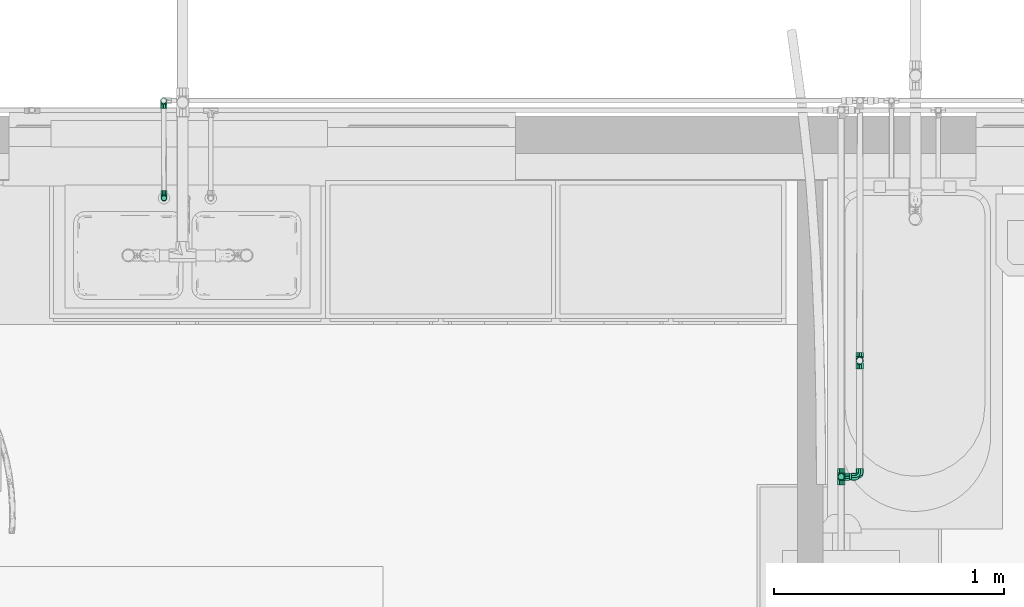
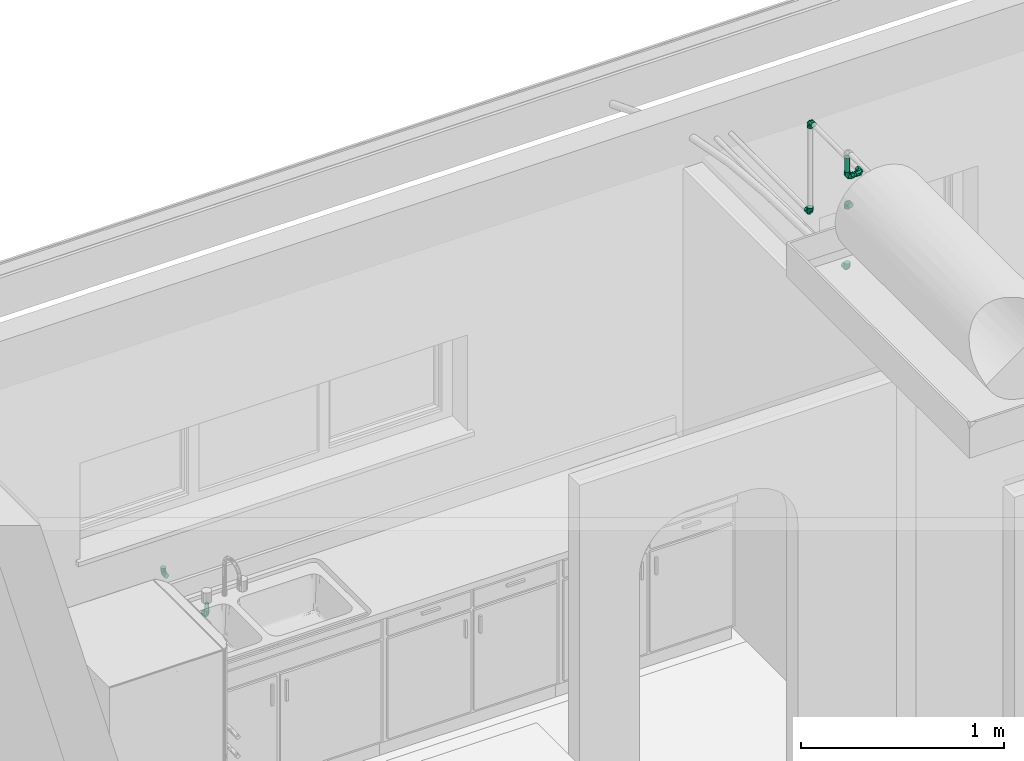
# One storey, part 27 of 41: 8 flow fittings, 3 flow segments.
"""IFC2X3 building model written with IfcOpenShell, lengths in millimetres."""

from ifc_helpers import new_model, entity, si_unit, converted_unit, derived_unit, direction, frame, origin, origin_2d_with_axis, place, context, subcontext, project, spatial, circle, extrude, faceted_brep, source, transform, mapped, type_object, type_shapes, element, save


model = new_model("IFC2X3")

# Units and contexts
model_context = context("Model", 3, precision=0.01, world=origin(), true_north=direction((6.12303176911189e-17, 1.0)))
body_context = subcontext(model_context, "Body", "Model", "MODEL_VIEW")
ifc_project = project(units=[si_unit("LENGTHUNIT", "METRE", prefix="MILLI"), si_unit("AREAUNIT", "SQUARE_METRE"), si_unit("VOLUMEUNIT", "CUBIC_METRE"), converted_unit("PLANEANGLEUNIT", "DEGREE", entity("IfcRatioMeasure", 0.0174532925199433), si_unit("PLANEANGLEUNIT", "RADIAN"), dimensions=[0, 0, 0, 0, 0, 0, 0]), si_unit("MASSUNIT", "GRAM", prefix="KILO"), derived_unit("MASSDENSITYUNIT", [(si_unit("MASSUNIT", "GRAM", prefix="KILO"), 1), (si_unit("LENGTHUNIT", "METRE"), -3)]), si_unit("TIMEUNIT", "SECOND"), si_unit("FREQUENCYUNIT", "HERTZ"), si_unit("THERMODYNAMICTEMPERATUREUNIT", "DEGREE_CELSIUS"), derived_unit("THERMALTRANSMITTANCEUNIT", [(si_unit("MASSUNIT", "GRAM", prefix="KILO"), 1), (si_unit("THERMODYNAMICTEMPERATUREUNIT", "KELVIN"), -1), (si_unit("TIMEUNIT", "SECOND"), -3)]), derived_unit("VOLUMETRICFLOWRATEUNIT", [(si_unit("LENGTHUNIT", "METRE"), 3), (si_unit("TIMEUNIT", "SECOND"), -1)]), si_unit("ELECTRICCURRENTUNIT", "AMPERE"), si_unit("ELECTRICVOLTAGEUNIT", "VOLT"), si_unit("POWERUNIT", "WATT"), si_unit("FORCEUNIT", "NEWTON", prefix="KILO"), si_unit("ILLUMINANCEUNIT", "LUX"), si_unit("LUMINOUSFLUXUNIT", "LUMEN"), si_unit("LUMINOUSINTENSITYUNIT", "CANDELA"), derived_unit("USERDEFINED", [(si_unit("MASSUNIT", "GRAM", prefix="KILO"), -1), (si_unit("LENGTHUNIT", "METRE"), -2), (si_unit("TIMEUNIT", "SECOND"), 3), (si_unit("LUMINOUSFLUXUNIT", "LUMEN"), 1)]), derived_unit("LINEARVELOCITYUNIT", [(si_unit("LENGTHUNIT", "METRE"), 1), (si_unit("TIMEUNIT", "SECOND"), -1)]), si_unit("PRESSUREUNIT", "PASCAL"), derived_unit("USERDEFINED", [(si_unit("LENGTHUNIT", "METRE"), -2), (si_unit("MASSUNIT", "GRAM", prefix="KILO"), 1), (si_unit("TIMEUNIT", "SECOND"), -2)])], contexts=[model_context])

# Site, building, storey
site_placement = place(None, origin())
site = spatial("IfcSite", under=ifc_project, at=site_placement, Name="Surface", CompositionType="ELEMENT")
building_placement = place(site_placement, origin())
building = spatial("IfcBuilding", under=site, at=building_placement, CompositionType="ELEMENT")
storey_placement = place(building_placement, frame((0.0, 0.0, 300.0)))
storey = spatial("IfcBuildingStorey", under=building, at=storey_placement, Name="F.F.L", CompositionType="ELEMENT", Elevation=300.0)

# Flow segments
pipe_segment_type = type_object("IfcPipeSegmentType", Name="Pipe Types:PVC80", PredefinedType="NOTDEFINED")
flow_segment_1_placement = place(storey_placement, origin())
element("IfcFlowSegment", 1, at=flow_segment_1_placement, inside=storey, type_object=pipe_segment_type, Name="Pipe Types:PVC80", ObjectType="Pipe Types:PVC80", context=body_context, shape_type="SweptSolid", body=[
    extrude(circle(Radius=13.335, at=origin_2d_with_axis()), frame((-4396.87517007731, 9258.84008589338, 3163.99100107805)), (0.0, 0.0, 1.0), 84.3256864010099),
])
flow_segment_2_placement = place(storey_placement, origin())
element("IfcFlowSegment", 2, at=flow_segment_2_placement, inside=storey, type_object=pipe_segment_type, Name="Pipe Types:PVC80", ObjectType="Pipe Types:PVC80", context=body_context, shape_type="SweptSolid", body=[
    extrude(circle(Radius=13.335, at=origin_2d_with_axis()), frame((-4361.55012008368, 9258.84075621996, 3128.66595107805), z_axis=(1.0, 1.89759535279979e-05, 0.0), x_axis=(1.89759535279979e-05, -1.0, 0.0)), (0.0, 0.0, 1.0), 9.70320059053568),
])
flow_segment_3_placement = place(storey_placement, origin())
element("IfcFlowSegment", 3, at=flow_segment_3_placement, inside=storey, type_object=pipe_segment_type, Name="Pipe Types:PVC80", ObjectType="Pipe Types:PVC80", context=body_context, shape_type="SweptSolid", body=[
    extrude(circle(Radius=10.668, at=origin_2d_with_axis()), frame((-7338.47517007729, 10468.6900891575, 824.137549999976)), (0.0, 0.0, 1.0), 40.8624500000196),
])

# Space
space_1_placement = place(storey_placement, origin())
space_1 = spatial("IfcSpace", under=storey, at=space_1_placement, Name="2", CompositionType="ELEMENT", InteriorOrExteriorSpace="INTERNAL")

# Flow fittings
pipe_fitting_type_1 = type_object("IfcPipeFittingType", Name="Standard", PredefinedType="NOTDEFINED")
shared_shape_1 = source(origin(), body_context, "Body", "Brep", [
    faceted_brep([(-33.7375499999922, 3.59598004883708, -13.4203802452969), (-33.7375499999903, -3.59598004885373, -13.420380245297), (-33.7375499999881, -12.0323837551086, -6.94690000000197), (-33.7375499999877, -13.8938000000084, 0.0), (-33.7375499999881, -12.0323837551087, 6.94689999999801), (-33.7375499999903, -3.59598004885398, 13.4203802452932), (-33.7375499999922, 3.59598004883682, 13.4203802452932), (-33.7375499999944, 12.0323837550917, 6.94689999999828), (-33.7375499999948, 13.8937999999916, 0.0), (-33.7375499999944, 12.0323837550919, -6.94690000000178), (-14.6875499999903, -13.8938000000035, 0.0), (-14.6875499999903, -12.0323837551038, 6.94689999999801), (-14.6875499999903, -3.59598004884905, 13.4203802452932), (-14.6875499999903, 3.59598004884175, 13.4203802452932), (3.59598004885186, 33.7375499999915, 13.4203802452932), (-3.59598004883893, 33.7375499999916, 13.4203802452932), (-3.59598004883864, 14.6875499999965, 13.4203802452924), (3.59598004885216, 14.6875499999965, 13.420380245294), (-14.6875499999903, 12.0323837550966, 6.94689999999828), (-14.6875499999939, 13.8937999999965, 0.0), (-14.6875499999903, 12.0323837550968, -6.94690000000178), (-14.6875499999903, 3.595980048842, -13.4203802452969), (-14.6875499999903, -3.59598004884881, -13.420380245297), (-3.59598004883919, 33.7375499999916, -13.4203802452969), (3.59598004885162, 33.7375499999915, -13.420380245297), (3.59598004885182, 14.6875499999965, -13.4203802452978), (-3.59598004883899, 14.6875499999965, -13.420380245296), (-14.6875499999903, -12.0323837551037, -6.94690000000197), (-0.73570850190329, 0.735706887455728, 12.9461366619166), (-5.12124733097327, -8.86554492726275, 8.82133054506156), (-3.19746952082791, -7.25999894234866, 0.0), (8.85075041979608, 5.0327975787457, 8.79727043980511), (12.0323837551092, 14.6875499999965, 6.94689999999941), (10.0646251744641, 0.396874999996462, 0.0), (-14.1262839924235, 14.1262839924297, 0.0), (-12.0323837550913, 14.6875499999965, 6.94689999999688), (-8.39237862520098, 8.39237845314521, 12.6322359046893), (13.8938000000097, 14.6875499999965, 0.0), (-13.8937999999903, 14.6875499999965, 0.0), (12.032383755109, 14.6875499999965, -6.94690000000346), (8.85074986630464, 5.03279761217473, -8.79727108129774), (-5.12124714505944, -8.86554487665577, -8.82133051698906), (-0.735707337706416, 0.735706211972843, -12.9461361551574), (-12.0323837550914, 14.6875499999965, -6.9469000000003), (-8.39237835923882, 8.3923781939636, -12.6322360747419), (-12.032383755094, 33.7375499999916, -6.94690000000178), (-13.8937999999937, 33.7375499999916, 0.0), (-12.0323837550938, 33.7375499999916, 6.94689999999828), (12.0323837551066, 33.7375499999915, 6.94689999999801), (13.8938000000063, 33.7375499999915, 0.0), (12.0323837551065, 33.7375499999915, -6.94690000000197)], [[[0, 1, 2, 3, 4, 5, 6, 7, 8, 9]], [[3, 10, 11, 4]], [[4, 11, 12, 5]], [[12, 13, 6, 5]], [[14, 15, 16, 17]], [[6, 13, 18, 7]], [[7, 18, 19, 8]], [[8, 19, 20, 9]], [[9, 20, 21, 0]], [[21, 22, 1, 0]], [[23, 24, 25, 26]], [[1, 22, 27, 2]], [[2, 27, 10, 3]], [[12, 28, 13]], [[29, 11, 30]], [[31, 28, 29]], [[28, 12, 29]], [[32, 31, 33]], [[34, 18, 35]], [[18, 36, 35]], [[34, 19, 18]], [[18, 13, 36]], [[11, 10, 30]], [[29, 33, 31]], [[33, 37, 32]], [[29, 30, 33]], [[32, 17, 31]], [[28, 36, 13]], [[34, 35, 38]], [[29, 12, 11]], [[35, 36, 16]], [[28, 16, 36]], [[17, 28, 31]], [[16, 28, 17]], [[20, 19, 34]], [[39, 40, 25]], [[40, 41, 42]], [[20, 43, 44]], [[41, 30, 27]], [[42, 21, 44]], [[41, 33, 30]], [[42, 44, 26]], [[27, 30, 10]], [[20, 34, 43]], [[43, 26, 44]], [[42, 25, 40]], [[41, 27, 22]], [[25, 42, 26]], [[40, 39, 33]], [[22, 21, 42]], [[39, 37, 33]], [[22, 42, 41]], [[33, 41, 40]], [[20, 44, 21]], [[43, 34, 38]], [[23, 45, 46, 47, 15, 14, 48, 49, 50, 24]], [[37, 49, 48, 32]], [[32, 48, 14, 17]], [[16, 15, 47, 35]], [[35, 47, 46, 38]], [[38, 46, 45, 43]], [[43, 45, 23, 26]], [[25, 24, 50, 39]], [[39, 50, 49, 37]]]),
])
type_shapes(pipe_fitting_type_1, [shared_shape_1])
flow_fitting_1_placement = place(space_1_placement, frame((-7338.47517007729, 10468.6900891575, 790.399999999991), z_axis=(1.0, 0.0, 0.0), x_axis=(0.0, 0.0, -1.0)))
element("IfcFlowFitting", 4, at=flow_fitting_1_placement, inside=space_1, type_object=pipe_fitting_type_1, Name="M_Elbow - PVC - Sch 40:Standard", ObjectType="Standard", context=body_context, shape_type="MappedRepresentation", body=[
    mapped(shared_shape_1, transform((0.0, 0.0, 0.0), scale=1.0)),
])
flow_fitting_2_placement = place(storey_placement, frame((-7339.93915842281, 10892.2567375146, 790.399999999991), z_axis=(-0.999993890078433, -0.00349568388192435, 0.0), x_axis=(0.0, 0.0, -1.0)))
element("IfcFlowFitting", 5, at=flow_fitting_2_placement, inside=storey, type_object=pipe_fitting_type_1, Name="M_Elbow - PVC - Sch 40:Standard", ObjectType="Standard", context=body_context, shape_type="MappedRepresentation", body=[
    mapped(shared_shape_1, transform((0.0, 0.0, 0.0), scale=1.0)),
])
pipe_fitting_type_2 = type_object("IfcPipeFittingType", Name="Standard", PredefinedType="NOTDEFINED")
shared_shape_2 = source(origin(), body_context, "Body", "Brep", [
    faceted_brep([(-35.3250499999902, -4.2106493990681, -15.7143574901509), (-35.3250499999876, -14.0891074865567, -8.13435000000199), (-35.325049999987, -16.2687000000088, 0.0), (-35.3250499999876, -14.0891074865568, 8.13434999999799), (-35.3250499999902, -4.21064939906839, 15.7143574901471), (-35.3250499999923, 4.21064939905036, 15.7143574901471), (-35.3250499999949, 14.089107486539, 8.1343499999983), (-35.3250499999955, 16.2686999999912, 0.0), (-35.3250499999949, 14.0891074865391, -8.13435000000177), (-35.3250499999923, 4.21064939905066, -15.7143574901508), (-17.0624499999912, -16.2687000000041, 0.0), (-17.0624499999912, -14.0891074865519, 8.13434999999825), (-17.0624499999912, -4.21064939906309, 15.7143574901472), (-17.0624499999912, 4.21064939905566, 15.714357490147), (4.21064939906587, 35.3250499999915, 15.7143574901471), (-4.21064939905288, 35.3250499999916, 15.7143574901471), (-4.21064939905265, 17.0624499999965, 15.7143574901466), (4.2106493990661, 17.0624499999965, 15.7143574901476), (-17.0624499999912, 14.0891074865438, 8.13434999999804), (-17.0624499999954, 16.2686999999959, 0.0), (-17.0624499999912, 14.089107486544, -8.13435000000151), (-17.0624499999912, 4.21064939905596, -15.7143574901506), (-17.0624499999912, -4.21064939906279, -15.714357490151), (-4.21064939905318, 35.3250499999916, -15.7143574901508), (4.21064939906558, 35.3250499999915, -15.7143574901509), (4.21064939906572, 17.0624499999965, -15.7143574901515), (-4.21064939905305, 17.0624499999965, -15.7143574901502), (-17.0624499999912, -14.0891074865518, -8.13435000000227), (-0.790080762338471, 0.790078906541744, 15.1415400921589), (-5.95227596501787, -10.4173898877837, 10.3177265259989), (-3.60834296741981, -8.50096768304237, 0.0), (10.4004616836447, 5.84839122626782, 10.2891059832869), (14.0891074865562, 17.0624499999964, 8.13434999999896), (11.8031726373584, 0.396874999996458, 0.0), (-16.5011839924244, 16.5011839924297, 0.0), (-14.0891074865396, 17.0624499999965, 8.13434999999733), (-9.78072392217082, 9.78072371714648, 14.7956641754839), (16.2687000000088, 17.0624499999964, 0.0), (-16.2686999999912, 17.0624499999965, 0.0), (14.089107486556, 17.0624499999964, -8.13435000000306), (10.4004611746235, 5.84839127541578, -10.2891065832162), (-0.79007954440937, 0.790078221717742, -15.1415395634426), (-14.0891074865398, 17.0624499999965, -8.1343500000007), (-9.78072363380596, 9.78072344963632, -14.7956643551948), (-5.95227577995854, -10.4173898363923, -10.317726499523), (-14.0891074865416, 35.3250499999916, -8.13435000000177), (-16.2686999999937, 35.3250499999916, 0.0), (-14.0891074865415, 35.3250499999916, 8.1343499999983), (14.0891074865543, 35.3250499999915, 8.13434999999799), (16.2687000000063, 35.3250499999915, 0.0), (14.0891074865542, 35.3250499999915, -8.13435000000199)], [[[0, 1, 2, 3, 4, 5, 6, 7, 8, 9]], [[2, 10, 11, 3]], [[3, 11, 12, 4]], [[12, 13, 5, 4]], [[14, 15, 16, 17]], [[5, 13, 18, 6]], [[6, 18, 19, 7]], [[7, 19, 20, 8]], [[8, 20, 21, 9]], [[21, 22, 0, 9]], [[23, 24, 25, 26]], [[0, 22, 27, 1]], [[1, 27, 10, 2]], [[12, 28, 13]], [[29, 11, 30]], [[28, 12, 29]], [[29, 31, 28]], [[32, 31, 33]], [[34, 18, 35]], [[18, 36, 35]], [[34, 19, 18]], [[18, 13, 36]], [[11, 10, 30]], [[29, 33, 31]], [[33, 37, 32]], [[17, 28, 31]], [[32, 17, 31]], [[28, 36, 13]], [[34, 35, 38]], [[29, 12, 11]], [[35, 36, 16]], [[28, 16, 36]], [[33, 29, 30]], [[16, 28, 17]], [[20, 19, 34]], [[39, 40, 25]], [[41, 25, 40]], [[20, 42, 43]], [[44, 30, 27]], [[41, 21, 43]], [[41, 43, 26]], [[22, 41, 44]], [[27, 30, 10]], [[20, 34, 42]], [[42, 26, 43]], [[20, 43, 21]], [[44, 27, 22]], [[25, 41, 26]], [[40, 39, 33]], [[22, 21, 41]], [[39, 37, 33]], [[44, 40, 33]], [[44, 33, 30]], [[44, 41, 40]], [[42, 34, 38]], [[23, 45, 46, 47, 15, 14, 48, 49, 50, 24]], [[37, 49, 48, 32]], [[32, 48, 14, 17]], [[16, 15, 47, 35]], [[35, 47, 46, 38]], [[38, 46, 45, 42]], [[42, 45, 23, 26]], [[25, 24, 50, 39]], [[39, 50, 49, 37]]]),
])
type_shapes(pipe_fitting_type_2, [shared_shape_2])
flow_fitting_3_placement = place(storey_placement, frame((-4316.52186947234, 9762.88465793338, 3128.66595107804), z_axis=(-0.999999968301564, 0.000251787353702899, 0.0), x_axis=(0.000251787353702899, 0.999999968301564, 0.0)))
element("IfcFlowFitting", 6, at=flow_fitting_3_placement, inside=storey, type_object=pipe_fitting_type_2, Name="M_Elbow - PVC - Sch 40:Standard", ObjectType="Standard", context=body_context, shape_type="MappedRepresentation", body=[
    mapped(shared_shape_2, transform((0.0, 0.0, 0.0), scale=1.0)),
])

# Space
space_2_placement = place(storey_placement, origin())
space_2 = spatial("IfcSpace", under=storey, at=space_2_placement, Name="3", CompositionType="ELEMENT", InteriorOrExteriorSpace="INTERNAL")

# Flow fittings
flow_fitting_4_placement = place(space_2_placement, frame((-4316.52186947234, 9762.8846579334, 2580.0), z_axis=(1.0, 0.0, 0.0), x_axis=(0.0, 0.0, -1.0)))
element("IfcFlowFitting", 7, at=flow_fitting_4_placement, inside=space_2, type_object=pipe_fitting_type_2, Name="M_Elbow - PVC - Sch 40:Standard", ObjectType="Standard", context=body_context, shape_type="MappedRepresentation", body=[
    mapped(shared_shape_2, transform((0.0, 0.0, 0.0), scale=1.0)),
])
flow_fitting_5_placement = place(storey_placement, frame((-4396.87517007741, 9258.84008589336, 2978.79999999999), z_axis=(-1.0, 0.0, 0.0), x_axis=(0.0, 1.0, 0.0)))
element("IfcFlowFitting", 8, at=flow_fitting_5_placement, inside=storey, type_object=pipe_fitting_type_2, Name="M_Elbow - PVC - Sch 40:Standard", ObjectType="Standard", context=body_context, shape_type="MappedRepresentation", body=[
    mapped(shared_shape_2, transform((0.0, 0.0, 0.0), scale=1.0)),
])
flow_fitting_6_placement = place(space_2_placement, frame((-4396.87517007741, 9258.84008589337, 2580.0), z_axis=(1.0, 0.0, 0.0), x_axis=(0.0, 0.0, -1.0)))
element("IfcFlowFitting", 9, at=flow_fitting_6_placement, inside=space_2, type_object=pipe_fitting_type_2, Name="M_Elbow - PVC - Sch 40:Standard", ObjectType="Standard", context=body_context, shape_type="MappedRepresentation", body=[
    mapped(shared_shape_2, transform((0.0, 0.0, 0.0), scale=1.0)),
])
flow_fitting_7_placement = place(storey_placement, frame((-4396.87517007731, 9258.84008589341, 3128.66595107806), z_axis=(1.89759546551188e-05, -1.0, 0.0), x_axis=(0.0, 0.0, -1.0)))
element("IfcFlowFitting", 10, at=flow_fitting_7_placement, inside=storey, type_object=pipe_fitting_type_2, Name="M_Elbow - PVC - Sch 40:Standard", ObjectType="Standard", context=body_context, shape_type="MappedRepresentation", body=[
    mapped(shared_shape_2, transform((0.0, 0.0, 0.0), scale=1.0)),
])
flow_fitting_8_placement = place(storey_placement, frame((-4316.52186950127, 9258.841610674, 3128.66595107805)))
element("IfcFlowFitting", 11, at=flow_fitting_8_placement, inside=storey, type_object=pipe_fitting_type_2, Name="M_Elbow - PVC - Sch 40:Standard", ObjectType="Standard", context=body_context, shape_type="MappedRepresentation", body=[
    mapped(shared_shape_2, transform((0.0, 0.0, 0.0), scale=1.0)),
])

save(model, "model.ifc")
